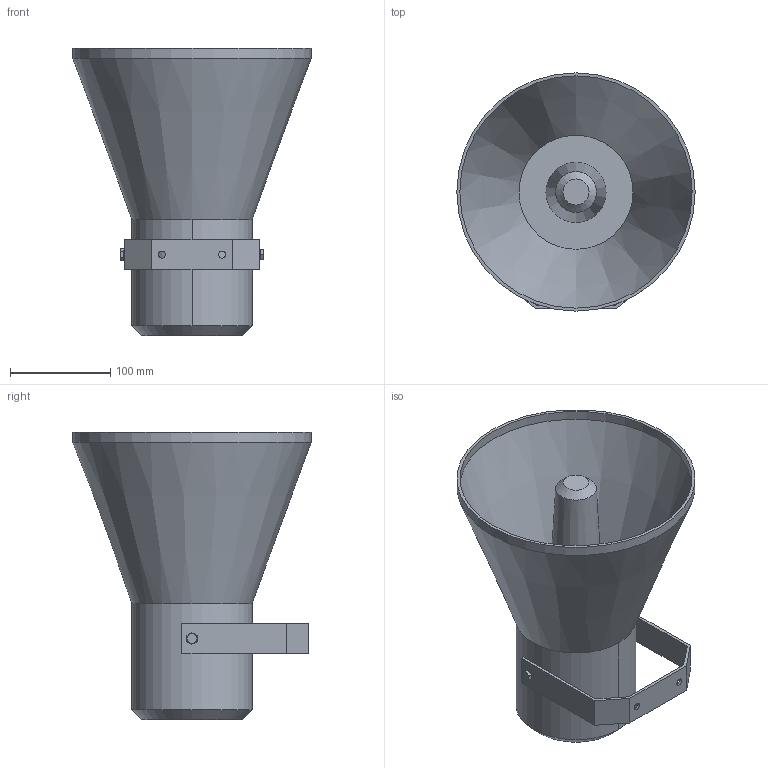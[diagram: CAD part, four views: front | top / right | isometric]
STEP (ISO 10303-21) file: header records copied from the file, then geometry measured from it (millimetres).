
FILE_DESCRIPTION(/* description */ ('HORN, 9.6W, 24VDC, EEx d, IIB, T4, IP 66/67'),/* implementation_level */ '2;1');
FILE_NAME(/* name */ 'C:\Users\mfarhan\Desktop\Horn.stp',/* time_stamp */ '2019-04-02T08:40:58+08:00',/* author */ ('mfarhan'),/* organization */ (''),/* preprocessor_version */ 'ST-DEVELOPER v17',/* originating_system */ 'Autodesk Inventor 2018',/* authorisation */ '');
FILE_SCHEMA (('AUTOMOTIVE_DESIGN { 1 0 10303 214 3 1 1 }'));
Length unit declared in the file: millimetre
Products named in the file (1): AEAC-0011-8000
Bounding box: 238 x 238 x 287 mm (x, y, z)
Volume: 975418.7 mm3; surface area: 392800.3 mm2
Topology: 8 solids, 8 shells, 103 faces, 238 edges, 154 vertices
Faces by surface type: plane 56, cylinder 25, cone 22
Full cylindrical faces by diameter (mm): 5.459 x2, 6 x2, 7 x2, 8.7 x2, 15 x1, 114 x2, 232 x1, 238 x1
Entity records: 2979 total; most frequent: CARTESIAN_POINT 579, DIRECTION 508, ORIENTED_EDGE 476, EDGE_CURVE 238, AXIS2_PLACEMENT_3D 192, VERTEX_POINT 154, LINE 124, VECTOR 124
